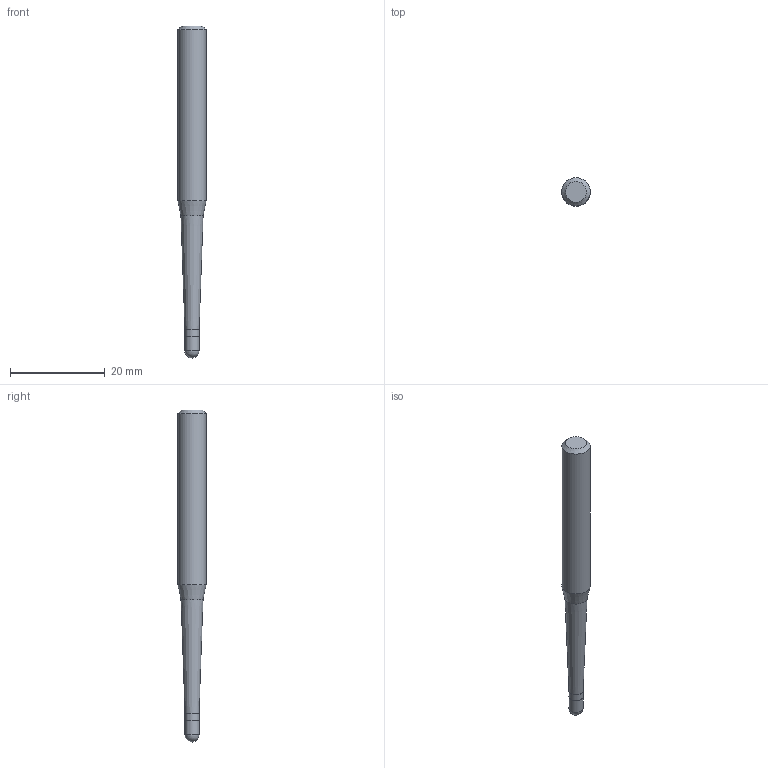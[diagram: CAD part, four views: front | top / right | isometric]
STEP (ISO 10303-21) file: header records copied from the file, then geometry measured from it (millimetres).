
FILE_DESCRIPTION((''),'2;1');
FILE_NAME('C:\Users\nsx150\AppData\Local\Temp\Mastercam 2021\E0ENTZRV18\TEMP.step','2021-09-02T09:57:29',(''),(''),'STEP Write','Mastercam 2021 ... CNC Software, Inc.','');
FILE_SCHEMA(('AUTOMOTIVE_DESIGN'));
Length unit declared in the file: millimetre
Products named in the file (1): None
Bounding box: 6 x 6 x 70 mm (x, y, z)
Volume: 1427.4 mm3; surface area: 1126.8 mm2
Topology: 2 solids, 2 shells, 10 faces, 16 edges, 9 vertices
Faces by surface type: plane 3, cylinder 3, cone 3, sphere 1
Full cylindrical faces by diameter (mm): 2.98 x1, 3 x1, 6 x1
Entity records: 232 total; most frequent: DIRECTION 40, CARTESIAN_POINT 28, AXIS2_PLACEMENT_3D 20, ORIENTED_EDGE 16, EDGE_LOOP 16, STYLED_ITEM 13, ADVANCED_FACE 10, FACE_BOUND 9
